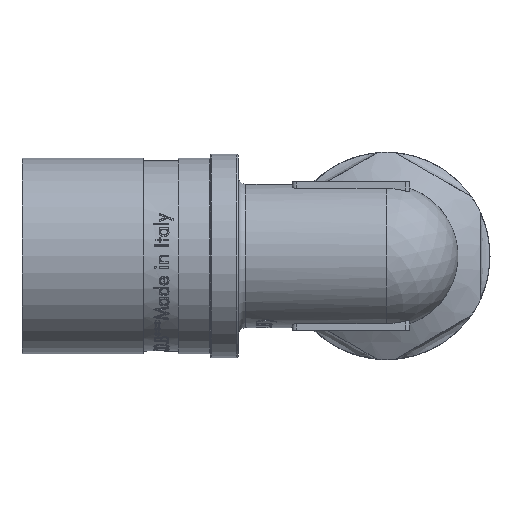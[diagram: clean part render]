
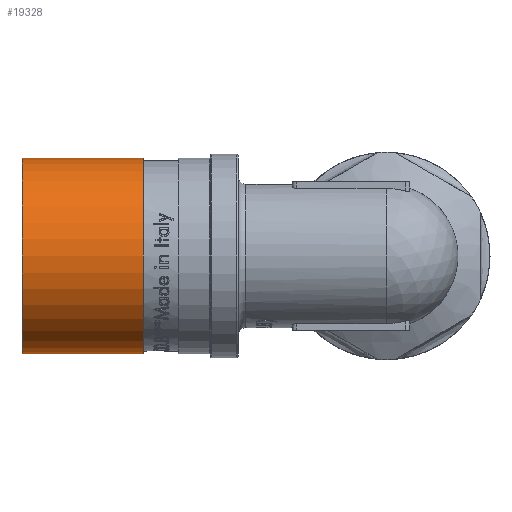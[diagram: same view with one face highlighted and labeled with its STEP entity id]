
A CAD part, front view. The second image highlights one B-rep face of the part: STEP entity #19328.
In plain terms, the highlighted cylindrical face has radius 12.5 mm (diameter 25 mm), a full revolution.
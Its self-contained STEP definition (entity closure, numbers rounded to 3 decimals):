
#2065=FACE_OUTER_BOUND('',#3215,.T.);
#3215=EDGE_LOOP('',(#17860,#17861,#17862,#17863,#17864,#17865));
#4594=CIRCLE('',#20256,12.5);
#4595=CIRCLE('',#20257,12.5);
#4596=CIRCLE('',#20259,12.5);
#4597=CIRCLE('',#20260,12.5);
#6144=LINE('',#44177,#7564);
#7564=VECTOR('',#23581,12.5);
#9405=VERTEX_POINT('',#44168);
#9406=VERTEX_POINT('',#44169);
#9407=VERTEX_POINT('',#44173);
#9408=VERTEX_POINT('',#44174);
#12257=EDGE_CURVE('',#9405,#9406,#4594,.T.);
#12258=EDGE_CURVE('',#9406,#9405,#4595,.T.);
#12259=EDGE_CURVE('',#9407,#9408,#4596,.T.);
#12260=EDGE_CURVE('',#9408,#9407,#4597,.T.);
#12261=EDGE_CURVE('',#9408,#9406,#6144,.T.);
#17860=ORIENTED_EDGE('',*,*,#12259,.F.);
#17861=ORIENTED_EDGE('',*,*,#12260,.F.);
#17862=ORIENTED_EDGE('',*,*,#12261,.T.);
#17863=ORIENTED_EDGE('',*,*,#12258,.T.);
#17864=ORIENTED_EDGE('',*,*,#12257,.T.);
#17865=ORIENTED_EDGE('',*,*,#12261,.F.);
#18314=CYLINDRICAL_SURFACE('',#20258,12.5);
#19328=ADVANCED_FACE('',(#2065),#18314,.T.);
#20256=AXIS2_PLACEMENT_3D('',#44170,#23571,#23572);
#20257=AXIS2_PLACEMENT_3D('',#44171,#23573,#23574);
#20258=AXIS2_PLACEMENT_3D('',#44172,#23575,#23576);
#20259=AXIS2_PLACEMENT_3D('',#44175,#23577,#23578);
#20260=AXIS2_PLACEMENT_3D('',#44176,#23579,#23580);
#23571=DIRECTION('center_axis',(1.,0.,0.));
#23572=DIRECTION('ref_axis',(0.,0.,-1.));
#23573=DIRECTION('center_axis',(1.,0.,0.));
#23574=DIRECTION('ref_axis',(0.,0.,-1.));
#23575=DIRECTION('center_axis',(1.,0.,0.));
#23576=DIRECTION('ref_axis',(0.,1.,0.));
#23577=DIRECTION('center_axis',(1.,0.,0.));
#23578=DIRECTION('ref_axis',(0.,0.,-1.));
#23579=DIRECTION('center_axis',(1.,0.,0.));
#23580=DIRECTION('ref_axis',(0.,0.,-1.));
#23581=DIRECTION('',(-1.,0.,0.));
#44168=CARTESIAN_POINT('',(-46.561,12.5,0.));
#44169=CARTESIAN_POINT('',(-46.561,-12.5,0.));
#44170=CARTESIAN_POINT('Origin',(-46.561,0.,0.));
#44171=CARTESIAN_POINT('Origin',(-46.561,0.,0.));
#44172=CARTESIAN_POINT('Origin',(-38.811,0.,0.));
#44173=CARTESIAN_POINT('',(-31.061,12.5,0.));
#44174=CARTESIAN_POINT('',(-31.061,-12.5,0.));
#44175=CARTESIAN_POINT('Origin',(-31.061,0.,0.));
#44176=CARTESIAN_POINT('Origin',(-31.061,0.,0.));
#44177=CARTESIAN_POINT('',(-38.811,-12.5,0.));
